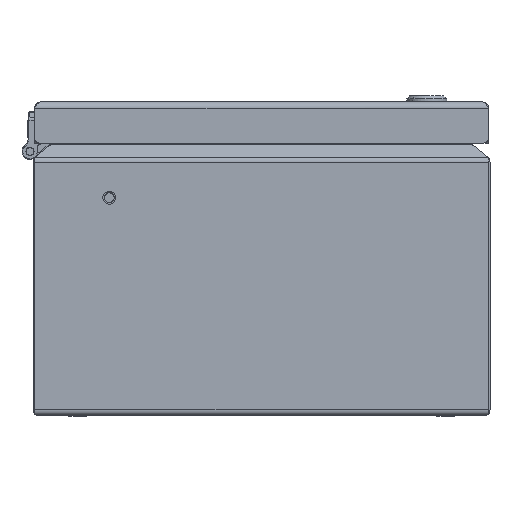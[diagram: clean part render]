
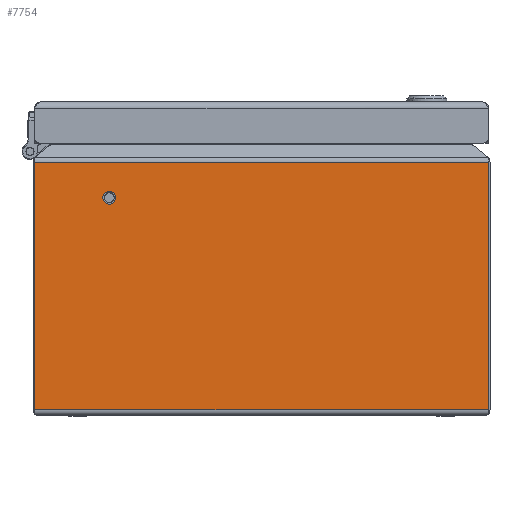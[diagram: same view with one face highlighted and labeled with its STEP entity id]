
A CAD part, front view. The second image highlights one B-rep face of the part: STEP entity #7754.
In plain terms, the highlighted planar face has unit normal (0, -1, 0).
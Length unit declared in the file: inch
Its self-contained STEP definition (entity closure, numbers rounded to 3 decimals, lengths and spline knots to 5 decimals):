
#643=DIRECTION('',(1.,0.,0.));
#644=VECTOR('',#643,8.94295);
#645=CARTESIAN_POINT('',(-4.47147,-6.,0.12));
#646=LINE('',#645,#644);
#664=DIRECTION('',(0.002,0.,1.));
#665=VECTOR('',#664,4.87305);
#666=CARTESIAN_POINT('',(4.47147,-6.,0.12));
#667=LINE('',#666,#665);
#671=DIRECTION('',(-0.002,0.,1.));
#672=VECTOR('',#671,4.87305);
#673=CARTESIAN_POINT('',(-4.47147,-6.,0.12));
#674=LINE('',#673,#672);
#678=DIRECTION('',(1.,0.,0.));
#679=VECTOR('',#678,8.95932);
#680=CARTESIAN_POINT('',(-4.47966,-6.,4.99304));
#681=LINE('',#680,#679);
#685=CARTESIAN_POINT('',(-3.,-6.,4.299));
#686=DIRECTION('',(0.,-1.,0.));
#687=DIRECTION('',(0.,0.,-1.));
#688=AXIS2_PLACEMENT_3D('',#685,#686,#687);
#693=CARTESIAN_POINT('',(-3.,-6.,4.299));
#694=DIRECTION('',(0.,-1.,0.));
#695=DIRECTION('',(0.,0.,1.));
#696=AXIS2_PLACEMENT_3D('',#693,#694,#695);
#6615=CARTESIAN_POINT('',(-4.47147,-6.,0.12));
#6616=CARTESIAN_POINT('',(-4.47966,-6.,4.99304));
#6617=VERTEX_POINT('',#6615);
#6618=VERTEX_POINT('',#6616);
#6791=CARTESIAN_POINT('',(4.47147,-6.,0.12));
#6792=CARTESIAN_POINT('',(4.47966,-6.,4.99304));
#6793=VERTEX_POINT('',#6791);
#6794=VERTEX_POINT('',#6792);
#7041=CARTESIAN_POINT('',(-3.,-6.,4.20095));
#7042=CARTESIAN_POINT('',(-3.,-6.,4.39705));
#7043=VERTEX_POINT('',#7041);
#7044=VERTEX_POINT('',#7042);
#7735=CARTESIAN_POINT('',(-4.5,-6.,0.));
#7736=DIRECTION('',(0.,-1.,0.));
#7737=DIRECTION('',(1.,0.,0.));
#7738=AXIS2_PLACEMENT_3D('',#7735,#7736,#7737);
#7739=PLANE('',#7738);
#7740=ORIENTED_EDGE('',*,*,#7725,.F.);
#7741=ORIENTED_EDGE('',*,*,#7669,.F.);
#7743=ORIENTED_EDGE('',*,*,#7742,.T.);
#7745=ORIENTED_EDGE('',*,*,#7744,.T.);
#7746=EDGE_LOOP('',(#7740,#7741,#7743,#7745));
#7747=FACE_OUTER_BOUND('',#7746,.F.);
#7749=ORIENTED_EDGE('',*,*,#7748,.T.);
#7751=ORIENTED_EDGE('',*,*,#7750,.T.);
#7752=EDGE_LOOP('',(#7749,#7751));
#7753=FACE_BOUND('',#7752,.F.);
#689=CIRCLE('',#688,0.09805);
#697=CIRCLE('',#696,0.09805);
#7669=EDGE_CURVE('',#6617,#6793,#646,.T.);
#7725=EDGE_CURVE('',#6793,#6794,#667,.T.);
#7742=EDGE_CURVE('',#6617,#6618,#674,.T.);
#7744=EDGE_CURVE('',#6618,#6794,#681,.T.);
#7748=EDGE_CURVE('',#7043,#7044,#689,.T.);
#7750=EDGE_CURVE('',#7044,#7043,#697,.T.);
#7754=ADVANCED_FACE('',(#7747,#7753),#7739,.T.);
